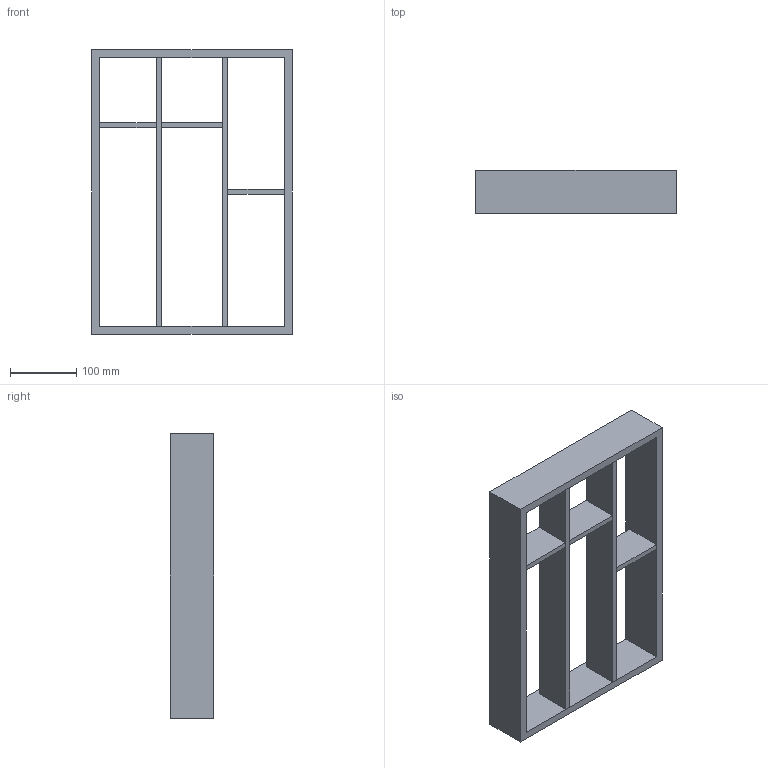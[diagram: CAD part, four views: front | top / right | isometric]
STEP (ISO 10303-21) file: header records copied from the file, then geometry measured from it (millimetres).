
FILE_DESCRIPTION (( 'STEP AP214' ), '1' );
FILE_NAME ('Vario Besteck NL450_B400_19 mm_Alu.step', '2010-11-04T08:33:12', ( 'grass' ), ( '' ), 'SwSTEP 2.0', 'SolidWorks 2010', '' );
FILE_SCHEMA (( 'AUTOMOTIVE_DESIGN' ));
Length unit declared in the file: millimetre
Products named in the file (1): Vario Besteck NL450_B400_19 mm_Alu
Bounding box: 302 x 65 x 429 mm (x, y, z)
Volume: 1591752 mm3; surface area: 361676 mm2
Topology: 6 solids, 6 shells, 40 faces, 84 edges, 56 vertices
Faces by surface type: plane 40
Entity records: 1131 total; most frequent: CARTESIAN_POINT 181, ORIENTED_EDGE 168, DIRECTION 166, EDGE_CURVE 84, LINE 84, VECTOR 84, VERTEX_POINT 56, EDGE_LOOP 42
